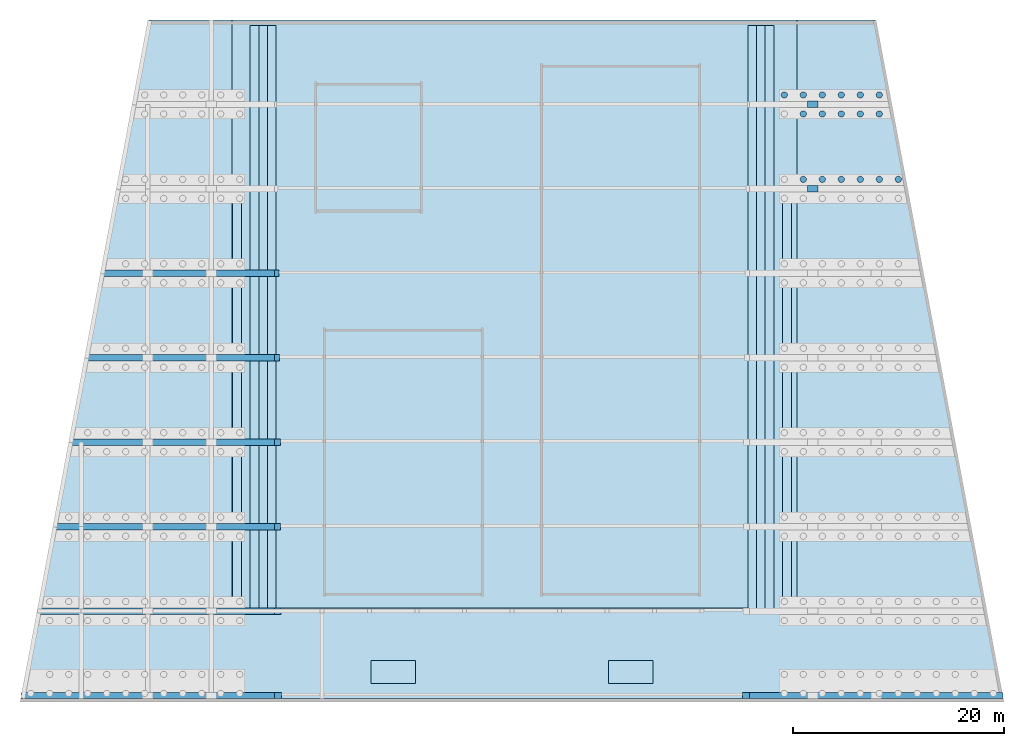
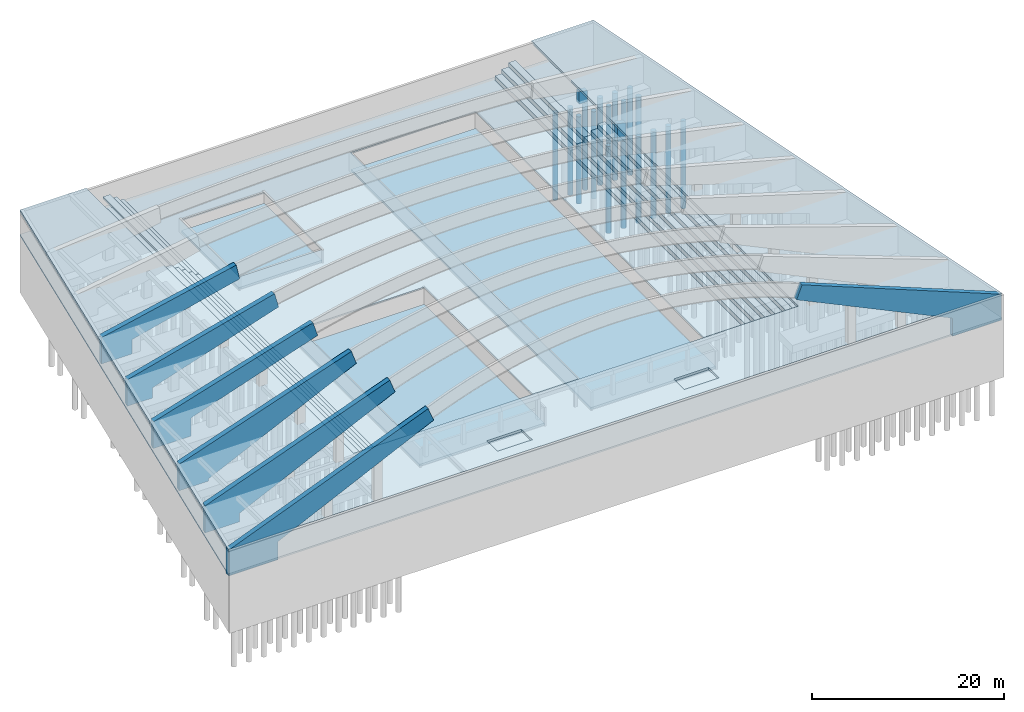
# One storey, part 5 of 10: 19 columns, 16 slabs.
"""IFC2X3 building model written with IfcOpenShell, lengths in millimetres."""

from ifc_helpers import new_model, si_unit, derived_unit, direction, frame, frame_2d, origin, origin_2d_with_axis, place, context, subcontext, project, spatial, polyline, rectangle, circle, outline, extrude, clip, halfspace, faceted_brep, source, transform, mapped, material, type_object, type_shapes, element, save


model = new_model("IFC2X3")

# Units and contexts
model_context = context("Model", 3, precision=0.01, world=origin(), true_north=direction((6.12303176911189e-17, 1.0)))
body_context = subcontext(model_context, "Body", "Model", "MODEL_VIEW")
ifc_project = project(units=[si_unit("LENGTHUNIT", "METRE", prefix="MILLI"), si_unit("AREAUNIT", "SQUARE_METRE"), si_unit("VOLUMEUNIT", "CUBIC_METRE"), si_unit("PLANEANGLEUNIT", "RADIAN"), si_unit("MASSUNIT", "GRAM", prefix="KILO"), derived_unit("MASSDENSITYUNIT", [(si_unit("MASSUNIT", "GRAM", prefix="KILO"), 1), (si_unit("LENGTHUNIT", "METRE"), -3)]), si_unit("TIMEUNIT", "SECOND"), si_unit("FREQUENCYUNIT", "HERTZ"), si_unit("THERMODYNAMICTEMPERATUREUNIT", "DEGREE_CELSIUS"), derived_unit("THERMALTRANSMITTANCEUNIT", [(si_unit("MASSUNIT", "GRAM", prefix="KILO"), 1), (si_unit("THERMODYNAMICTEMPERATUREUNIT", "KELVIN"), -1), (si_unit("TIMEUNIT", "SECOND"), -3)]), derived_unit("VOLUMETRICFLOWRATEUNIT", [(si_unit("LENGTHUNIT", "METRE"), 3), (si_unit("TIMEUNIT", "SECOND"), -1)]), si_unit("ELECTRICCURRENTUNIT", "AMPERE"), si_unit("ELECTRICVOLTAGEUNIT", "VOLT"), si_unit("POWERUNIT", "WATT"), si_unit("FORCEUNIT", "NEWTON", prefix="KILO"), si_unit("ILLUMINANCEUNIT", "LUX"), si_unit("LUMINOUSFLUXUNIT", "LUMEN"), si_unit("LUMINOUSINTENSITYUNIT", "CANDELA"), derived_unit("USERDEFINED", [(si_unit("MASSUNIT", "GRAM", prefix="KILO"), -1), (si_unit("LENGTHUNIT", "METRE"), -2), (si_unit("TIMEUNIT", "SECOND"), 3), (si_unit("LUMINOUSFLUXUNIT", "LUMEN"), 1)]), derived_unit("LINEARVELOCITYUNIT", [(si_unit("LENGTHUNIT", "METRE"), 1), (si_unit("TIMEUNIT", "SECOND"), -1)]), si_unit("PRESSUREUNIT", "PASCAL"), derived_unit("USERDEFINED", [(si_unit("LENGTHUNIT", "METRE"), -2), (si_unit("MASSUNIT", "GRAM", prefix="KILO"), 1), (si_unit("TIMEUNIT", "SECOND"), -2)])], contexts=[model_context])

# Site, building, storey
site_placement = place(None, origin())
site = spatial("IfcSite", under=ifc_project, at=site_placement, Name="Default", CompositionType="ELEMENT")
building_placement = place(site_placement, origin())
building = spatial("IfcBuilding", under=site, at=building_placement, CompositionType="ELEMENT")
storey_placement = place(building_placement, origin())
storey = spatial("IfcBuildingStorey", under=building, at=storey_placement, Name="Default", CompositionType="ELEMENT", Elevation=0.0)

# Columns
ifc_material_1 = material(Name="CONCRETE/28MPa 117")
column_type_1 = type_object("IfcColumnType", Name="PILOTE", PredefinedType="COLUMN")
shared_shape_1 = source(origin(), body_context, "Body", "SweptSolid", [
    extrude(circle(Radius=300.000000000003, at=origin_2d_with_axis()), frame((115808.86, 123702.3654658, -15300.0), z_axis=(0.0, 0.0, 1.0), x_axis=(-1.0, 0.0, 0.0)), (0.0, 0.0, 1.0), 11100.0),
])
type_shapes(column_type_1, [shared_shape_1])
column_1_placement = place(building_placement, origin())
element("IfcColumn", 1, at=column_1_placement, inside=storey, type_object=column_type_1, material=ifc_material_1, Name="PILOTE 316:PILOTE 316", ObjectType="PILOTE 316:PILOTE 316", context=body_context, shape_type="MappedRepresentation", body=[
    mapped(shared_shape_1, transform((0.0, 0.0, 0.0), scale=1.0)),
])
column_type_2 = type_object("IfcColumnType", Name="PILOTE", PredefinedType="COLUMN")
shared_shape_2 = source(origin(), body_context, "Body", "SweptSolid", [
    extrude(circle(Radius=300.000000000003, at=origin_2d_with_axis()), frame((115808.86, 121902.3654658, -15300.0), z_axis=(0.0, 0.0, 1.0), x_axis=(-1.0, 0.0, 0.0)), (0.0, 0.0, 1.0), 11100.0),
])
type_shapes(column_type_2, [shared_shape_2])
column_2_placement = place(building_placement, origin())
element("IfcColumn", 2, at=column_2_placement, inside=storey, type_object=column_type_2, material=ifc_material_1, Name="PILOTE 326:PILOTE 326", ObjectType="PILOTE 326:PILOTE 326", context=body_context, shape_type="MappedRepresentation", body=[
    mapped(shared_shape_2, transform((0.0, 0.0, 0.0), scale=1.0)),
])
column_type_3 = type_object("IfcColumnType", Name="PILOTE", PredefinedType="COLUMN")
shared_shape_3 = source(origin(), body_context, "Body", "SweptSolid", [
    extrude(circle(Radius=300.000000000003, at=origin_2d_with_axis()), frame((114008.86, 123702.3654658, -15300.0), z_axis=(0.0, 0.0, 1.0), x_axis=(-1.0, 0.0, 0.0)), (0.0, 0.0, 1.0), 11100.0),
])
type_shapes(column_type_3, [shared_shape_3])
column_3_placement = place(building_placement, origin())
element("IfcColumn", 3, at=column_3_placement, inside=storey, type_object=column_type_3, material=ifc_material_1, Name="PILOTE 336:PILOTE 336", ObjectType="PILOTE 336:PILOTE 336", context=body_context, shape_type="MappedRepresentation", body=[
    mapped(shared_shape_3, transform((0.0, 0.0, 0.0), scale=1.0)),
])
column_type_4 = type_object("IfcColumnType", Name="PILOTE", PredefinedType="COLUMN")
shared_shape_4 = source(origin(), body_context, "Body", "SweptSolid", [
    extrude(circle(Radius=300.000000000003, at=origin_2d_with_axis()), frame((114008.86, 121902.3654658, -15300.0), z_axis=(0.0, 0.0, 1.0), x_axis=(-1.0, 0.0, 0.0)), (0.0, 0.0, 1.0), 11100.0),
])
type_shapes(column_type_4, [shared_shape_4])
column_4_placement = place(building_placement, origin())
element("IfcColumn", 4, at=column_4_placement, inside=storey, type_object=column_type_4, material=ifc_material_1, Name="PILOTE 346:PILOTE 346", ObjectType="PILOTE 346:PILOTE 346", context=body_context, shape_type="MappedRepresentation", body=[
    mapped(shared_shape_4, transform((0.0, 0.0, 0.0), scale=1.0)),
])
column_type_5 = type_object("IfcColumnType", Name="PILOTE", PredefinedType="COLUMN")
shared_shape_5 = source(origin(), body_context, "Body", "SweptSolid", [
    extrude(circle(Radius=300.000000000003, at=origin_2d_with_axis()), frame((112208.86, 123702.3654658, -15300.0), z_axis=(0.0, 0.0, 1.0), x_axis=(-1.0, 0.0, 0.0)), (0.0, 0.0, 1.0), 11100.0),
])
type_shapes(column_type_5, [shared_shape_5])
column_5_placement = place(building_placement, origin())
element("IfcColumn", 5, at=column_5_placement, inside=storey, type_object=column_type_5, material=ifc_material_1, Name="PILOTE 354:PILOTE 354", ObjectType="PILOTE 354:PILOTE 354", context=body_context, shape_type="MappedRepresentation", body=[
    mapped(shared_shape_5, transform((0.0, 0.0, 0.0), scale=1.0)),
])
column_type_6 = type_object("IfcColumnType", Name="PILOTE", PredefinedType="COLUMN")
shared_shape_6 = source(origin(), body_context, "Body", "SweptSolid", [
    extrude(circle(Radius=300.000000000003, at=origin_2d_with_axis()), frame((112208.86, 121902.3654658, -15300.0), z_axis=(0.0, 0.0, 1.0), x_axis=(-1.0, 0.0, 0.0)), (0.0, 0.0, 1.0), 11100.0),
])
type_shapes(column_type_6, [shared_shape_6])
column_6_placement = place(building_placement, origin())
element("IfcColumn", 6, at=column_6_placement, inside=storey, type_object=column_type_6, material=ifc_material_1, Name="PILOTE 362:PILOTE 362", ObjectType="PILOTE 362:PILOTE 362", context=body_context, shape_type="MappedRepresentation", body=[
    mapped(shared_shape_6, transform((0.0, 0.0, 0.0), scale=1.0)),
])
column_type_7 = type_object("IfcColumnType", Name="PILOTE", PredefinedType="COLUMN")
shared_shape_7 = source(origin(), body_context, "Body", "SweptSolid", [
    extrude(circle(Radius=300.000000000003, at=origin_2d_with_axis()), frame((110408.86, 123702.3654658, -15300.0), z_axis=(0.0, 0.0, 1.0), x_axis=(-1.0, 0.0, 0.0)), (0.0, 0.0, 1.0), 11100.0),
])
type_shapes(column_type_7, [shared_shape_7])
column_7_placement = place(building_placement, origin())
element("IfcColumn", 7, at=column_7_placement, inside=storey, type_object=column_type_7, material=ifc_material_1, Name="PILOTE 370:PILOTE 370", ObjectType="PILOTE 370:PILOTE 370", context=body_context, shape_type="MappedRepresentation", body=[
    mapped(shared_shape_7, transform((0.0, 0.0, 0.0), scale=1.0)),
])
column_type_8 = type_object("IfcColumnType", Name="PILOTE", PredefinedType="COLUMN")
shared_shape_8 = source(origin(), body_context, "Body", "SweptSolid", [
    extrude(circle(Radius=300.000000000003, at=origin_2d_with_axis()), frame((110408.86, 121902.3654658, -15300.0), z_axis=(0.0, 0.0, 1.0), x_axis=(-1.0, 0.0, 0.0)), (0.0, 0.0, 1.0), 11100.0),
])
type_shapes(column_type_8, [shared_shape_8])
column_8_placement = place(building_placement, origin())
element("IfcColumn", 8, at=column_8_placement, inside=storey, type_object=column_type_8, material=ifc_material_1, Name="PILOTE 378:PILOTE 378", ObjectType="PILOTE 378:PILOTE 378", context=body_context, shape_type="MappedRepresentation", body=[
    mapped(shared_shape_8, transform((0.0, 0.0, 0.0), scale=1.0)),
])
column_type_9 = type_object("IfcColumnType", Name="PILOTE", PredefinedType="COLUMN")
shared_shape_9 = source(origin(), body_context, "Body", "SweptSolid", [
    extrude(circle(Radius=300.000000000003, at=origin_2d_with_axis()), frame((108608.86, 123702.3654658, -15300.0), z_axis=(0.0, 0.0, 1.0), x_axis=(-1.0, 0.0, 0.0)), (0.0, 0.0, 1.0), 11100.0),
])
type_shapes(column_type_9, [shared_shape_9])
column_9_placement = place(building_placement, origin())
element("IfcColumn", 9, at=column_9_placement, inside=storey, type_object=column_type_9, material=ifc_material_1, Name="PILOTE 388:PILOTE 388", ObjectType="PILOTE 388:PILOTE 388", context=body_context, shape_type="MappedRepresentation", body=[
    mapped(shared_shape_9, transform((0.0, 0.0, 0.0), scale=1.0)),
])
column_type_10 = type_object("IfcColumnType", Name="PILOTE", PredefinedType="COLUMN")
shared_shape_10 = source(origin(), body_context, "Body", "SweptSolid", [
    extrude(circle(Radius=300.000000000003, at=origin_2d_with_axis()), frame((106808.86, 123702.3654658, -15300.0), z_axis=(0.0, 0.0, 1.0), x_axis=(-1.0, 0.0, 0.0)), (0.0, 0.0, 1.0), 11100.0),
])
type_shapes(column_type_10, [shared_shape_10])
column_10_placement = place(building_placement, origin())
element("IfcColumn", 10, at=column_10_placement, inside=storey, type_object=column_type_10, material=ifc_material_1, Name="PILOTE 396:PILOTE 396", ObjectType="PILOTE 396:PILOTE 396", context=body_context, shape_type="MappedRepresentation", body=[
    mapped(shared_shape_10, transform((0.0, 0.0, 0.0), scale=1.0)),
])
column_type_11 = type_object("IfcColumnType", Name="PILOTE", PredefinedType="COLUMN")
shared_shape_11 = source(origin(), body_context, "Body", "SweptSolid", [
    extrude(circle(Radius=300.000000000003, at=origin_2d_with_axis()), frame((108608.86, 121902.3654658, -15300.0), z_axis=(0.0, 0.0, 1.0), x_axis=(-1.0, 0.0, 0.0)), (0.0, 0.0, 1.0), 11100.0),
])
type_shapes(column_type_11, [shared_shape_11])
column_11_placement = place(building_placement, origin())
element("IfcColumn", 11, at=column_11_placement, inside=storey, type_object=column_type_11, material=ifc_material_1, Name="PILOTE 406:PILOTE 406", ObjectType="PILOTE 406:PILOTE 406", context=body_context, shape_type="MappedRepresentation", body=[
    mapped(shared_shape_11, transform((0.0, 0.0, 0.0), scale=1.0)),
])
column_type_12 = type_object("IfcColumnType", Name="PILOTE", PredefinedType="COLUMN")
shared_shape_12 = source(origin(), body_context, "Body", "SweptSolid", [
    extrude(circle(Radius=300.000000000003, at=origin_2d_with_axis()), frame((117608.86, 115702.3654658, -15300.0), z_axis=(0.0, 0.0, 1.0), x_axis=(-1.0, 0.0, 0.0)), (0.0, 0.0, 1.0), 11100.0),
])
type_shapes(column_type_12, [shared_shape_12])
column_12_placement = place(building_placement, origin())
element("IfcColumn", 12, at=column_12_placement, inside=storey, type_object=column_type_12, material=ifc_material_1, Name="PILOTE 422:PILOTE 422", ObjectType="PILOTE 422:PILOTE 422", context=body_context, shape_type="MappedRepresentation", body=[
    mapped(shared_shape_12, transform((0.0, 0.0, 0.0), scale=1.0)),
])
column_type_13 = type_object("IfcColumnType", Name="PILOTE", PredefinedType="COLUMN")
shared_shape_13 = source(origin(), body_context, "Body", "SweptSolid", [
    extrude(circle(Radius=300.000000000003, at=origin_2d_with_axis()), frame((115808.86, 115702.3654658, -15300.0), z_axis=(0.0, 0.0, 1.0), x_axis=(-1.0, 0.0, 0.0)), (0.0, 0.0, 1.0), 11100.0),
])
type_shapes(column_type_13, [shared_shape_13])
column_13_placement = place(building_placement, origin())
element("IfcColumn", 13, at=column_13_placement, inside=storey, type_object=column_type_13, material=ifc_material_1, Name="PILOTE 440:PILOTE 440", ObjectType="PILOTE 440:PILOTE 440", context=body_context, shape_type="MappedRepresentation", body=[
    mapped(shared_shape_13, transform((0.0, 0.0, 0.0), scale=1.0)),
])
column_type_14 = type_object("IfcColumnType", Name="PILOTE", PredefinedType="COLUMN")
shared_shape_14 = source(origin(), body_context, "Body", "SweptSolid", [
    extrude(circle(Radius=300.000000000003, at=origin_2d_with_axis()), frame((114008.86, 115702.3654658, -15300.0), z_axis=(0.0, 0.0, 1.0), x_axis=(-1.0, 0.0, 0.0)), (0.0, 0.0, 1.0), 11100.0),
])
type_shapes(column_type_14, [shared_shape_14])
column_14_placement = place(building_placement, origin())
element("IfcColumn", 14, at=column_14_placement, inside=storey, type_object=column_type_14, material=ifc_material_1, Name="PILOTE 456:PILOTE 456", ObjectType="PILOTE 456:PILOTE 456", context=body_context, shape_type="MappedRepresentation", body=[
    mapped(shared_shape_14, transform((0.0, 0.0, 0.0), scale=1.0)),
])
column_type_15 = type_object("IfcColumnType", Name="PILOTE", PredefinedType="COLUMN")
shared_shape_15 = source(origin(), body_context, "Body", "SweptSolid", [
    extrude(circle(Radius=300.000000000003, at=origin_2d_with_axis()), frame((112208.86, 115702.3654658, -15300.0), z_axis=(0.0, 0.0, 1.0), x_axis=(-1.0, 0.0, 0.0)), (0.0, 0.0, 1.0), 11100.0),
])
type_shapes(column_type_15, [shared_shape_15])
column_15_placement = place(building_placement, origin())
element("IfcColumn", 15, at=column_15_placement, inside=storey, type_object=column_type_15, material=ifc_material_1, Name="PILOTE 474:PILOTE 474", ObjectType="PILOTE 474:PILOTE 474", context=body_context, shape_type="MappedRepresentation", body=[
    mapped(shared_shape_15, transform((0.0, 0.0, 0.0), scale=1.0)),
])
column_type_16 = type_object("IfcColumnType", Name="PILOTE", PredefinedType="COLUMN")
shared_shape_16 = source(origin(), body_context, "Body", "SweptSolid", [
    extrude(circle(Radius=300.000000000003, at=origin_2d_with_axis()), frame((110408.86, 115702.3654658, -15300.0), z_axis=(0.0, 0.0, 1.0), x_axis=(-1.0, 0.0, 0.0)), (0.0, 0.0, 1.0), 11100.0),
])
type_shapes(column_type_16, [shared_shape_16])
column_16_placement = place(building_placement, origin())
element("IfcColumn", 16, at=column_16_placement, inside=storey, type_object=column_type_16, material=ifc_material_1, Name="PILOTE 490:PILOTE 490", ObjectType="PILOTE 490:PILOTE 490", context=body_context, shape_type="MappedRepresentation", body=[
    mapped(shared_shape_16, transform((0.0, 0.0, 0.0), scale=1.0)),
])
column_type_17 = type_object("IfcColumnType", Name="PILOTE", PredefinedType="COLUMN")
shared_shape_17 = source(origin(), body_context, "Body", "SweptSolid", [
    extrude(circle(Radius=300.000000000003, at=origin_2d_with_axis()), frame((108608.86, 115702.3654658, -15300.0), z_axis=(0.0, 0.0, 1.0), x_axis=(-1.0, 0.0, 0.0)), (0.0, 0.0, 1.0), 11100.0),
])
type_shapes(column_type_17, [shared_shape_17])
column_17_placement = place(building_placement, origin())
element("IfcColumn", 17, at=column_17_placement, inside=storey, type_object=column_type_17, material=ifc_material_1, Name="PILOTE 506:PILOTE 506", ObjectType="PILOTE 506:PILOTE 506", context=body_context, shape_type="MappedRepresentation", body=[
    mapped(shared_shape_17, transform((0.0, 0.0, 0.0), scale=1.0)),
])
column_type_18 = type_object("IfcColumnType", Name="COLUMNA", PredefinedType="COLUMN")
shared_shape_18 = source(origin(), body_context, "Body", "Clipping", [
    clip(extrude(rectangle(XDim=600.000000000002, YDim=1000.00000000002, at=frame_2d((0.0, -1.73372427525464e-11), x_axis=(1.0, 0.0))), frame((109508.8630785, 122806.322644, -3299.9973373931), z_axis=(0.0, 0.0, 1.0), x_axis=(0.0, -1.0, 0.0)), (0.0, 0.0, 1.0), 1571.22462598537), halfspace(frame((107265.515903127, 125068.544011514, -1423.55654824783), z_axis=(0.172451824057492, 0.0, 0.985017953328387), x_axis=(0.0, 1.0, 0.0)), False)),
])
type_shapes(column_type_18, [shared_shape_18])
column_18_placement = place(building_placement, origin())
element("IfcColumn", 18, at=column_18_placement, inside=storey, type_object=column_type_18, Name="COLUMNA:COLUMNA", ObjectType="COLUMNA:COLUMNA", context=body_context, shape_type="MappedRepresentation", body=[
    mapped(shared_shape_18, transform((0.0, 0.0, 0.0), scale=1.0)),
])
column_type_19 = type_object("IfcColumnType", Name="COLUMNA", PredefinedType="COLUMN")
shared_shape_19 = source(origin(), body_context, "Body", "Clipping", [
    clip(extrude(rectangle(XDim=600.000000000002, YDim=999.999999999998, at=frame_2d((0.0, -8.66862137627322e-12), x_axis=(1.0, 0.0))), frame((109508.8630785, 114806.322644, -3300.00486799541), z_axis=(0.0, 0.0, 1.0), x_axis=(0.0, -1.0, 0.0)), (0.0, 0.0, 1.0), 2372.99282852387), halfspace(frame((106615.229362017, 117756.291940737, -339.532235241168), z_axis=(0.238360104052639, 0.0, 0.971176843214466), x_axis=(0.0, 1.0, 0.0)), False)),
])
type_shapes(column_type_19, [shared_shape_19])
column_19_placement = place(building_placement, origin())
element("IfcColumn", 19, at=column_19_placement, inside=storey, type_object=column_type_19, Name="COLUMNA 1923:COLUMNA 1923", ObjectType="COLUMNA 1923:COLUMNA 1923", context=body_context, shape_type="MappedRepresentation", body=[
    mapped(shared_shape_19, transform((0.0, 0.0, 0.0), scale=1.0)),
])

# Slabs
ifc_material_2 = material(Name="Concrete, Cast-in-Place gray")
slab_type_1 = type_object("IfcSlabType", Name="LOSA", PredefinedType="FLOOR", material=ifc_material_2)
slab_1_placement = place(building_placement, origin())
element("IfcSlab", 20, at=slab_1_placement, inside=storey, type_object=slab_type_1, Name="LOSA 1398:LOSA 1398", ObjectType="LOSA 1398:LOSA 1398", PredefinedType="FLOOR", context=body_context, shape_type="SweptSolid", body=[
    extrude(outline(polyline([(1653.21729229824, -10076.4156384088), (4953.21724950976, -10076.4156384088), (4953.21729229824, -4183.30821651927), (2653.21729223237, -4183.30821651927), (-6266.08641863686, 14595.8633534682), (-7946.78270770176, 13923.584356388), (1653.21729229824, -10076.4156384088)])), frame((117432.447440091, 66502.3654658, 1653.21729229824), z_axis=(0.0, 1.0, 0.0), x_axis=(0.0, 0.0, -1.0)), (0.0, 0.0, 1.0), 600.000000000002),
])
ifc_material_3 = material(Name="CONCRETE/28MPa")
slab_type_2 = type_object("IfcSlabType", Name="CONTRAPISO", PredefinedType="FLOOR", material=ifc_material_3)
slab_2_placement = place(building_placement, origin())
element("IfcSlab", 21, at=slab_2_placement, inside=storey, type_object=slab_type_2, Name="CONTRAPISO:CONTRAPISO", ObjectType="CONTRAPISO:CONTRAPISO", PredefinedType="FLOOR", context=body_context, shape_type="SweptSolid", body=[
    extrude(outline(polyline([(1236.66539548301, -1219.12699635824), (2066.66789570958, -1219.12699635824), (2066.66789570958, -976.889905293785), (-2033.33356695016, 1824.78389231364), (-2033.33356695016, 1049.54585520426), (-1253.33454350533, 1049.54585520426), (-1253.33454350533, 482.380572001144), (-423.331857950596, 482.380572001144), (-423.331857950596, -84.7886174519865), (406.666677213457, -84.7886174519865), (406.666677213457, -651.957806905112), (1236.66539548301, -651.957806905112), (1236.66539548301, -1219.12699635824)])), frame((105411.064346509, 75055.4970340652, -1372.67486378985), z_axis=(0.0, 1.0, 0.0), x_axis=(1.0, 0.0, 0.0)), (0.0, 0.0, 1.0), 39500.0),
])
slab_type_3 = type_object("IfcSlabType", Name="LOSA", PredefinedType="FLOOR", material=ifc_material_3)
slab_3_placement = place(building_placement, origin())
element("IfcSlab", 22, at=slab_3_placement, inside=storey, type_object=slab_type_3, Name="LOSA 1499:LOSA 1499", ObjectType="LOSA 1499:LOSA 1499", PredefinedType="FLOOR", context=body_context, shape_type="SweptSolid", body=[
    extrude(outline(polyline([(-1270.83256660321, -320.820635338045), (1674.42950694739, -320.820635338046), (1243.89434545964, 316.030703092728), (597.701201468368, -120.819865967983), (283.443444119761, 344.032929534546), (-404.168459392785, -120.818259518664), (-718.42621674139, 344.034535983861), (-1406.04125525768, -120.818772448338), (-1270.83256660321, -320.820635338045)])), frame((104584.550902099, 114586.055786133, -1987.37859344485), z_axis=(0.0, 1.0, 0.0), x_axis=(-0.828450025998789, 0.0, -0.560062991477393)), (0.0, 0.0, 1.0), 15680.0),
])
slab_type_4 = type_object("IfcSlabType", Name="CONTRAPISO", PredefinedType="FLOOR", material=ifc_material_3)
slab_4_placement = place(building_placement, origin())
element("IfcSlab", 23, at=slab_4_placement, inside=storey, type_object=slab_type_4, Name="CONTRAPISO 2626:CONTRAPISO 2626", ObjectType="CONTRAPISO 2626:CONTRAPISO 2626", PredefinedType="FLOOR", context=body_context, shape_type="SweptSolid", body=[
    extrude(outline(polyline([(-1219.12699635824, -1236.66539548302), (-1219.12699635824, -2066.66789570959), (-976.889905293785, -2066.66789570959), (1824.78389231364, 2033.33356695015), (1049.54585520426, 2033.33356695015), (1049.54585520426, 1253.33454350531), (482.380572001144, 1253.33454350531), (482.380572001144, 423.331857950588), (-84.7886174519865, 423.331857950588), (-84.7886174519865, -406.666677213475), (-651.957806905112, -406.666677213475), (-651.957806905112, -1236.66539548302), (-1219.12699635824, -1236.66539548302)])), frame((56606.6552792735, 75055.4970187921, -1372.67486378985), z_axis=(0.0, -1.0, 0.0), x_axis=(0.0, 0.0, -1.0)), (0.0, 0.0, -1.0), 39500.0),
])
ifc_material_4 = material(Name="CONCRETE/28MPa 1537")
slab_type_5 = type_object("IfcSlabType", Name="LOSA", PredefinedType="FLOOR", material=ifc_material_4)
slab_5_placement = place(building_placement, origin())
element("IfcSlab", 24, at=slab_5_placement, inside=storey, type_object=slab_type_5, Name="LOSA 2655:LOSA 2655", ObjectType="LOSA 2655:LOSA 2655", PredefinedType="FLOOR", context=body_context, shape_type="SweptSolid", body=[
    extrude(rectangle(XDim=15000.0, YDim=25000.0, at=frame_2d((4.54747350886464e-12, -4.54747350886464e-12), x_axis=(1.0, 0.0))), frame((70707.1797485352, 88912.868225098, -5400.0)), (0.0, 0.0, 1.0), 250.000000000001),
])
slab_type_6 = type_object("IfcSlabType", Name="LOSA", PredefinedType="FLOOR", material=ifc_material_4)
slab_6_placement = place(building_placement, origin())
element("IfcSlab", 25, at=slab_6_placement, inside=storey, type_object=slab_type_6, Name="LOSA 2692:LOSA 2692", ObjectType="LOSA 2692:LOSA 2692", PredefinedType="FLOOR", context=body_context, shape_type="SweptSolid", body=[
    extrude(rectangle(XDim=10000.0, YDim=12000.0, at=origin_2d_with_axis()), frame((67407.1766967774, 118712.863647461, -4650.00076293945)), (0.0, 0.0, 1.0), 250.0),
])
slab_type_7 = type_object("IfcSlabType", Name="LOSA", PredefinedType="FLOOR", material=ifc_material_4)
slab_7_placement = place(building_placement, origin())
element("IfcSlab", 26, at=slab_7_placement, inside=storey, type_object=slab_type_7, Name="LOSA 2725:LOSA 2725", ObjectType="LOSA 2725:LOSA 2725", PredefinedType="FLOOR", context=body_context, shape_type="SweptSolid", body=[
    extrude(rectangle(XDim=15000.0, YDim=49999.9921875, at=origin_2d_with_axis()), frame((91307.1782226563, 101412.864501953, -5400.0)), (0.0, 0.0, 1.0), 250.000000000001),
])
slab_type_8 = type_object("IfcSlabType", Name="LOSA", PredefinedType="FLOOR", material=ifc_material_3)
slab_8_placement = place(building_placement, origin())
element("IfcSlab", 27, at=slab_8_placement, inside=storey, type_object=slab_type_8, Name="LOSA 3033:LOSA 3033", ObjectType="LOSA 3033:LOSA 3033", PredefinedType="FLOOR", context=body_context, shape_type="SweptSolid", body=[
    extrude(outline(polyline([(445.962425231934, -1232.50103759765), (687.379356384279, -1232.50103759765), (687.379356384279, -402.499206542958), (126.267906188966, -402.499206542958), (126.267906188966, 427.498840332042), (-434.843544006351, 427.498840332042), (-434.843544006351, 1207.5014038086), (-1203.56986236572, 1207.5014038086), (445.962425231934, -1232.50103759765)])), frame((57433.1690979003, 114586.055786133, -1987.37859344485), z_axis=(0.0, 1.0, 0.0), x_axis=(0.0, 0.0, 1.0)), (0.0, 0.0, 1.0), 15680.0),
])
slab_type_9 = type_object("IfcSlabType", Name="LOSA", PredefinedType="FLOOR", material=ifc_material_2)
slab_9_placement = place(building_placement, frame((37757.7988634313, 82502.37, -3300.00023402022)))
element("IfcSlab", 28, at=slab_9_placement, inside=storey, type_object=slab_type_9, Name="LOSA 5052:LOSA 5052", ObjectType="LOSA 5052:LOSA 5052", PredefinedType="FLOOR", context=body_context, shape_type="Brep", body=[
    faceted_brep([(3533.02668727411, 0.0, 0.0), (3533.02668727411, 0.0, 300.000244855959), (21339.8220342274, 0.0, 8757.46607897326), (20751.0580581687, 0.0, 10477.8293355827), (0.0, 0.0, 3376.14578029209), (0.0, 0.0, 0.000234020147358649), (20751.0580581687, 600.0, 10477.8293355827), (21339.8220342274, 600.0, 8757.46607897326), (3533.02668727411, 600.0, 300.000244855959), (3533.02668727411, 600.0, 0.000234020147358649), (112.498605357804, 600.0, 0.000234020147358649), (112.498605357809, 600.0, 3414.6464434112), (3533.02668727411, 0.0, 0.000234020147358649), (3533.02668727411, 600.0, 0.0)], [[[0, 1, 2, 3, 4, 5]], [[6, 7, 8, 9, 10, 11]], [[1, 12, 13, 8]], [[2, 1, 8, 7]], [[3, 2, 7, 6]], [[3, 6, 11, 4]], [[9, 12, 5, 10]], [[5, 4, 11, 10]]]),
])
ifc_material_5 = material(Name="Default Roof")
slab_type_10 = type_object("IfcSlabType", Name="CONTRAPISO", PredefinedType="FLOOR", material=ifc_material_5)
slab_10_placement = place(building_placement, origin())
element("IfcSlab", 29, at=slab_10_placement, inside=storey, type_object=slab_type_10, Name="CONTRAPISO 5434:CONTRAPISO 5434", ObjectType="CONTRAPISO 5434:CONTRAPISO 5434", PredefinedType="FLOOR", context=body_context, shape_type="SweptSolid", body=[
    extrude(outline(polyline([(-46556.2495588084, -32150.0008285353), (46556.2516933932, -32150.0008285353), (34500.1467766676, 32150.0008285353), (-34500.1489112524, 32150.0008285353), (-46556.2495588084, -32150.0008285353)]), holes=[polyline([(17798.3206182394, 27760.4920524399), (17798.3206182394, -22239.5001350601), (2798.32061823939, -22239.5001350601), (2798.32061823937, 27760.4920524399), (17798.3206182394, 27760.4920524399)]), polyline([(-18601.6809076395, 26060.4951041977), (-8601.68090763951, 26060.4951041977), (-8601.68090763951, 14060.4951041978), (-18601.6809076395, 14060.4951041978), (-18601.6809076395, 26060.4951041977)]), polyline([(-17801.6778558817, 2760.49968183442), (-2801.67785588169, 2760.49968183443), (-2801.67785588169, -22239.5003181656), (-17801.6778558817, -22239.5003181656), (-17801.6778558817, 2760.49968183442)])]), frame((81008.8576044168, 98652.3685432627, -3200.0)), (0.0, 0.0, 1.0), 200.0),
])
slab_type_11 = type_object("IfcSlabType", Name="ENTREPISO", PredefinedType="FLOOR", material=ifc_material_2)
slab_11_placement = place(building_placement, origin())
element("IfcSlab", 30, at=slab_11_placement, inside=storey, type_object=slab_type_11, Name="ENTREPISO:ENTREPISO", ObjectType="ENTREPISO:ENTREPISO", PredefinedType="FLOOR", context=body_context, shape_type="SweptSolid", body=[
    extrude(outline(polyline([(-42269.3679251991, -39314.9277673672), (23151.1188295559, -39314.9277673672), (24529.055091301, -31965.8434424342), (-30216.1750973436, -21701.2397858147), (-20348.3924646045, 30927.5854228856), (34396.8377240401, 20662.9817662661), (35866.9306494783, 28503.5743789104), (-25110.0068072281, 52202.7971949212), (-42269.3679251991, -39314.9277673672)]), holes=[polyline([(-29815.5324753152, 19300.1755944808), (-27653.2127554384, 18894.7456633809), (-28427.2153511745, 14766.680743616), (-30589.5350710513, 15172.1106747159), (-29815.5324753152, 19300.1755944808)]), polyline([(-34735.977548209, -6942.52282402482), (-33961.9749524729, -2814.4579042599), (-31799.6552325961, -3219.88783535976), (-32573.6578283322, -7347.95275512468), (-34735.977548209, -6942.52282402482)])]), frame((81133.8755614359, 100802.565172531, -200.0), z_axis=(0.0, 0.0, 1.0), x_axis=(-0.184286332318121, 0.982872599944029, 0.0)), (0.0, 0.0, 1.0), 300.0),
])
slab_type_12 = type_object("IfcSlabType", Name="LOSA", PredefinedType="FLOOR", material=ifc_material_2)
slab_12_placement = place(building_placement, frame((40757.7610904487, 98502.3669014, -3300.0)))
element("IfcSlab", 31, at=slab_12_placement, inside=storey, type_object=slab_type_12, Name="LOSA 5533:LOSA 5533", ObjectType="LOSA 5533:LOSA 5533", PredefinedType="FLOOR", context=body_context, shape_type="Brep", body=[
    faceted_brep([(17745.1560631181, 600.0, 8122.16744408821), (18243.9523348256, 600.0, 6260.63441544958), (3035.89661230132, 600.0, 1300.0), (3035.89661230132, 600.0, 0.0), (112.498605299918, 600.0, 0.0), (112.498605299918, 600.0, 3397.51111785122), (3035.89661230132, 0.0, 0.0), (3035.89661230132, 0.0, 1300.0), (18243.9523348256, 0.0, 6260.63441544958), (17745.1560631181, 0.0, 8122.16744408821), (0.0, 0.0, 3367.36720741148), (0.0, 0.0, 0.0)], [[[0, 1, 2, 3, 4, 5]], [[6, 7, 8, 9, 10, 11]], [[9, 0, 5, 10]], [[1, 0, 9, 8]], [[2, 1, 8, 7]], [[3, 2, 7, 6]], [[3, 6, 11, 4]], [[5, 4, 11, 10]]]),
])
slab_type_13 = type_object("IfcSlabType", Name="LOSA", PredefinedType="FLOOR", material=ifc_material_2)
slab_13_placement = place(building_placement, frame((42257.7424943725, 106502.366901, -3300.0)))
element("IfcSlab", 32, at=slab_13_placement, inside=storey, type_object=slab_type_13, Name="LOSA 5554:LOSA 5554", ObjectType="LOSA 5554:LOSA 5554", PredefinedType="FLOOR", context=body_context, shape_type="Brep", body=[
    faceted_brep([(16251.1144026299, 600.0, 6911.615234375), (16666.1455550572, 600.0, 5013.4775390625), (3718.45231775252, 600.0, 1835.66943359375), (3718.45231775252, 600.0, 0.0), (112.498605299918, 600.0, 0.0), (112.498605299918, 600.0, 3382.87745392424), (3718.45231775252, 0.0, 0.0), (3718.45231775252, 0.0, 1835.66943359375), (16666.1455550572, 0.0, 5013.4775390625), (16251.1144026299, 0.0, 6911.615234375), (0.0, 0.0, 3358.27942868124), (0.0, 0.0, 0.0)], [[[0, 1, 2, 3, 4, 5]], [[6, 7, 8, 9, 10, 11]], [[9, 0, 5, 10]], [[1, 0, 9, 8]], [[2, 1, 8, 7]], [[3, 2, 7, 6]], [[3, 6, 11, 4]], [[5, 4, 11, 10]]]),
])
slab_type_14 = type_object("IfcSlabType", Name="LOSA", PredefinedType="FLOOR", material=ifc_material_2)
slab_14_placement = place(building_placement, frame((36257.8166107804, 74502.3654658, -3300.00018971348)))
element("IfcSlab", 33, at=slab_14_placement, inside=storey, type_object=slab_type_14, Name="LOSA 5625:LOSA 5625", ObjectType="LOSA 5625:LOSA 5625", PredefinedType="FLOOR", context=body_context, shape_type="Brep", body=[
    faceted_brep([(22251.0402727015, 600.0, 11666.5665349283), (22879.4822661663, 600.0, 9965.04993335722), (4144.14773258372, 600.0, 1066.56702345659), (4144.14773258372, 600.0, 0.0), (112.498605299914, 600.0, 0.0), (112.49860529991, 600.0, 3489.86846472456), (4144.14773258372, 0.0, 6.76431626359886e-05), (4144.14773258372, 0.0, 1066.56702345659), (22879.4822661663, 0.0, 9965.04993335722), (22251.0402727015, 0.0, 11666.5665349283), (0.0, 0.0, 3448.3179803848), (0.0, 0.0, 0.0), (4144.14773258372, 600.0, 6.76431626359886e-05), (4144.14773258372, 0.0, 0.0)], [[[0, 1, 2, 3, 4, 5]], [[6, 7, 8, 9, 10, 11]], [[9, 0, 5, 10]], [[1, 0, 9, 8]], [[2, 1, 8, 7]], [[12, 2, 7, 13]], [[3, 13, 11, 4]], [[5, 4, 11, 10]]]),
])
slab_type_15 = type_object("IfcSlabType", Name="LOSA", PredefinedType="FLOOR", material=ifc_material_2)
slab_15_placement = place(building_placement, frame((39257.9278091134, 90503.1569014, -3300.0)))
element("IfcSlab", 34, at=slab_15_placement, inside=storey, type_object=slab_type_15, Name="LOSA 5648:LOSA 5648", ObjectType="LOSA 5648:LOSA 5648", PredefinedType="FLOOR", context=body_context, shape_type="Brep", body=[
    faceted_brep([(19250.9291207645, 600.0, 9289.0908203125), (19812.5255480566, 600.0, 7461.67968749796), (4535.72891708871, 600.0, 2300.0), (4535.72891708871, 600.0, 0.0), (112.498605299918, 600.0, 0.0), (112.498605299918, 600.0, 3407.50702027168), (4535.72891708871, 0.0, 0.0), (4535.72891708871, 0.0, 2300.0), (19812.5255480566, 0.0, 7461.67968749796), (19250.9291207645, 0.0, 9289.0908203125), (0.0, 0.0, 3372.93417617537), (0.0, 0.0, 0.0)], [[[0, 1, 2, 3, 4, 5]], [[6, 7, 8, 9, 10, 11]], [[9, 0, 5, 10]], [[1, 0, 9, 8]], [[2, 1, 8, 7]], [[3, 2, 7, 6]], [[3, 6, 11, 4]], [[5, 4, 11, 10]]]),
])
slab_type_16 = type_object("IfcSlabType", Name="LOSA", PredefinedType="FLOOR", material=ifc_material_2)
slab_16_placement = place(building_placement, origin())
element("IfcSlab", 35, at=slab_16_placement, inside=storey, type_object=slab_type_16, Name="LOSA 5886:LOSA 5886", ObjectType="LOSA 5886:LOSA 5886", PredefinedType="FLOOR", context=body_context, shape_type="SweptSolid", body=[
    extrude(outline(polyline([(4183.30821651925, -4953.21728516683), (10076.4156384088, -4953.21728516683), (10076.4156384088, -1653.21728516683), (-13923.584356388, 7946.78271483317), (-14595.8633534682, 6266.08642576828), (4183.30821651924, -2653.21728510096), (4183.30821651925, -4953.21728516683)])), frame((44585.2725599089, 66502.3654658, 1653.21728516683), z_axis=(0.0, 1.0, 0.0), x_axis=(-1.0, 0.0, 0.0)), (0.0, 0.0, 1.0), 600.000000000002),
])

save(model, "model.ifc")
